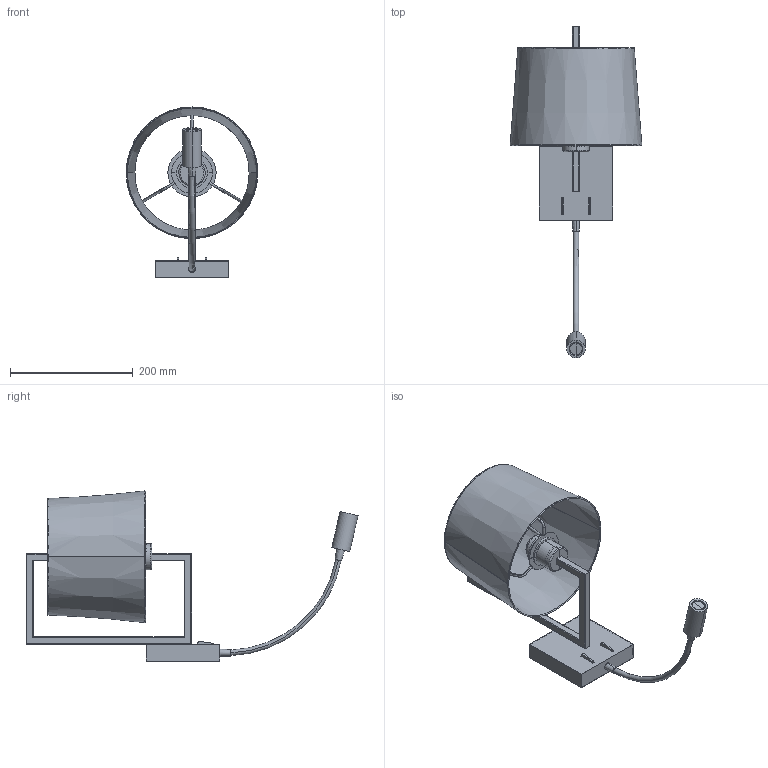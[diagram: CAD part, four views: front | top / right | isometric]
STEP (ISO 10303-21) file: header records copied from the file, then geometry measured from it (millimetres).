
FILE_DESCRIPTION(/* description */ (''),/* implementation_level */ '2;1');
FILE_NAME(/* name */ 'C:\Users\FrancoSartori\Documents\FARO\01_En Proceso\00_FRAME\03_Publicación\20173-02.stp',/* time_stamp */ '2021-06-16T12:38:56+02:00',/* author */ ('FrancoSartori'),/* organization */ (''),/* preprocessor_version */ 'ST-DEVELOPER v18.1',/* originating_system */ 'AutoCAD Mechanical',/* authorisation */ '');
FILE_SCHEMA (('AUTOMOTIVE_DESIGN { 1 0 10303 214 3 1 1 }'));
Length unit declared in the file: millimetre
Products named in the file (3): Product; 20172_ 20173_ - structure-567369-_3D_; 2P0111 - 2P0111 White textile shade-567372-_3D_
Assembly tree (2 placements, depth 2):
  Product
    20172_ 20173_ - structure-567369-_3D_
    2P0111 - 2P0111 White textile shade-567372-_3D_
Bounding box: 214.84 x 541.56 x 277.53 mm (x, y, z)
Volume: 430310.5 mm3; surface area: 581117.1 mm2
Topology: 18 solids, 18 shells, 235 faces, 500 edges, 294 vertices
Faces by surface type: plane 125, cylinder 80, torus 16, cone 10, bspline 4
Entity records: 8065 total; most frequent: CARTESIAN_POINT 2948, DIRECTION 1058, ORIENTED_EDGE 1000, EDGE_CURVE 500, AXIS2_PLACEMENT_3D 386, VERTEX_POINT 294, LINE 286, VECTOR 286
